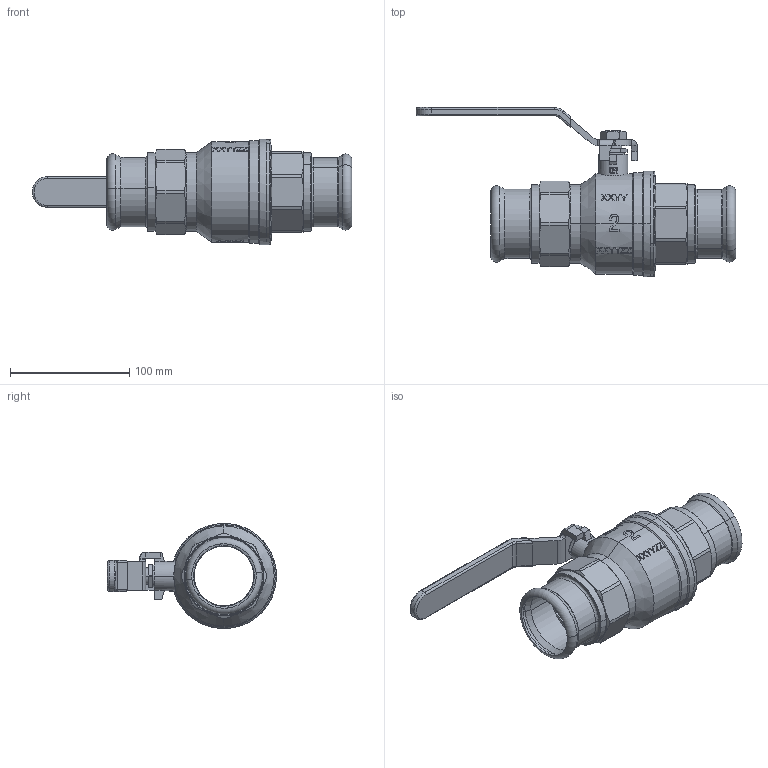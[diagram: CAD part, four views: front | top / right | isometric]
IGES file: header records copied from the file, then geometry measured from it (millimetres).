
Global section: file name: No Iges File Name specified; native system: AutoDesk Inventor R12.0; preprocessor: AutoDesk Inventor Iges Exporter R12.0; date: 20120118.092933; units: millimetre
Bounding box: 267.5 x 141.5 x 88 mm (x, y, z)
Volume: 352453.3 mm3; surface area: 148049.2 mm2
Topology: 1 solids, 8 shells, 973 faces, 2945 edges, 2102 vertices
Faces by surface type: plane 423, bspline 211, revolution 116, cylinder 107, cone 80, torus 32, sphere 4
